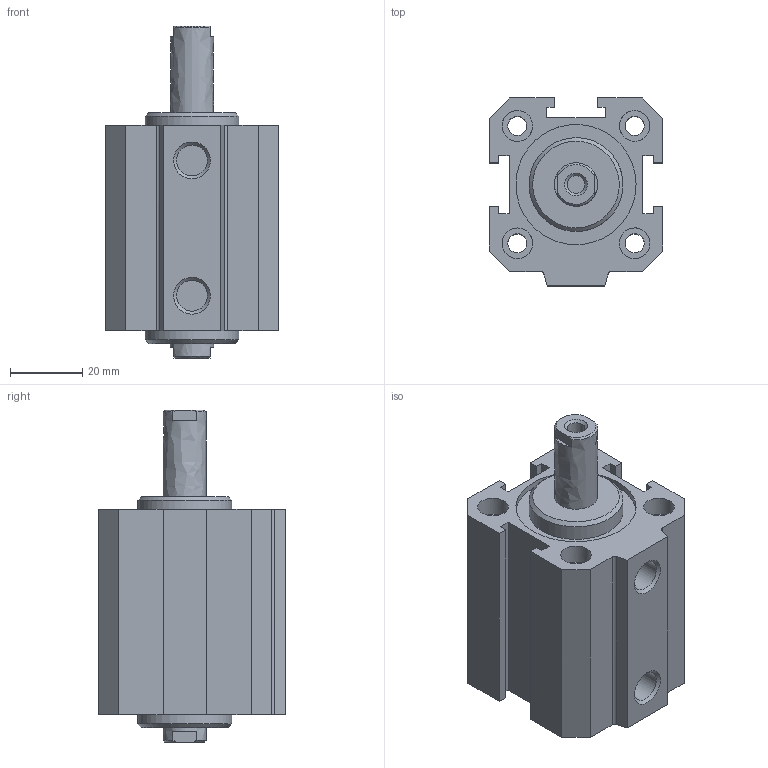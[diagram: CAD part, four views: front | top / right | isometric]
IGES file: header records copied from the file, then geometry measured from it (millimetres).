
Global section: file name: 1514_32_0020; native system: Autodesk Inventor 2014; preprocessor: unknown; author: A. Manieri; date: 20160824.113520; units: millimetre
Bounding box: 48 x 52 x 92 mm (x, y, z)
Volume: 101992.1 mm3; surface area: 35619 mm2
Topology: 2 solids, 2 shells, 106 faces, 276 edges, 194 vertices
Faces by surface type: bspline 106
